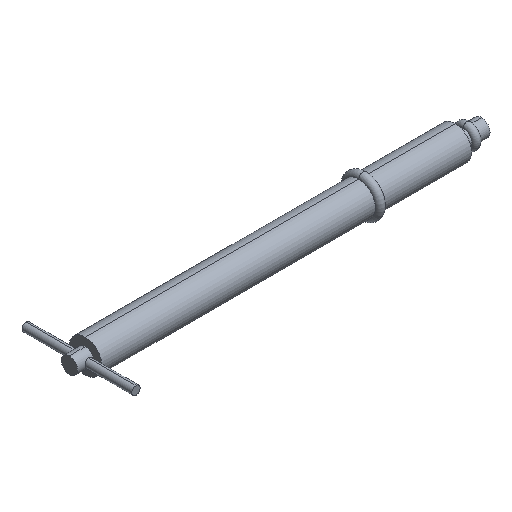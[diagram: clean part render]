
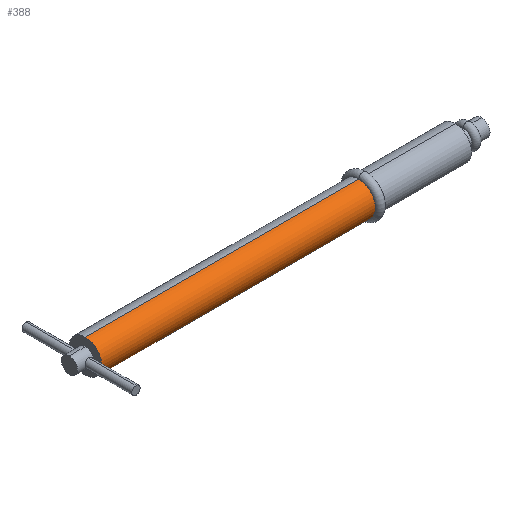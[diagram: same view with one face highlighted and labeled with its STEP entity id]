
A CAD part, isometric view. The second image highlights one B-rep face of the part: STEP entity #388.
In plain terms, the highlighted cylindrical face has radius 6 mm (diameter 12 mm), a partial arc.
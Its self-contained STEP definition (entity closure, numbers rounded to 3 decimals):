
#19 = DIRECTION ( 'NONE',  ( -1., 0., 0. ) ) ;
#65 = CARTESIAN_POINT ( 'NONE',  ( 5.799, 0., -6. ) ) ;
#74 = CYLINDRICAL_SURFACE ( 'NONE', #820, 6. ) ;
#103 = ORIENTED_EDGE ( 'NONE', *, *, #362, .T. ) ;
#114 = VERTEX_POINT ( 'NONE', #597 ) ;
#155 = DIRECTION ( 'NONE',  ( -1., 0., 0. ) ) ;
#190 = ORIENTED_EDGE ( 'NONE', *, *, #739, .T. ) ;
#263 = EDGE_CURVE ( 'NONE', #481, #439, #816, .T. ) ;
#303 = EDGE_LOOP ( 'NONE', ( #432, #103, #190, #584 ) ) ;
#323 = LINE ( 'NONE', #719, #819 ) ;
#362 = EDGE_CURVE ( 'NONE', #114, #455, #609, .T. ) ;
#364 = VECTOR ( 'NONE', #19, 1000. ) ;
#380 = DIRECTION ( 'NONE',  ( -1., 0., 0. ) ) ;
#388 = ADVANCED_FACE ( 'NONE', ( #759 ), #74, .T. ) ;
#392 = CARTESIAN_POINT ( 'NONE',  ( 5.799, 0., 6. ) ) ;
#398 = CARTESIAN_POINT ( 'NONE',  ( 105.355, 0., 0. ) ) ;
#401 = DIRECTION ( 'NONE',  ( 0., 0., 1. ) ) ;
#412 = DIRECTION ( 'NONE',  ( -1., 0., 0. ) ) ;
#432 = ORIENTED_EDGE ( 'NONE', *, *, #657, .F. ) ;
#439 = VERTEX_POINT ( 'NONE', #392 ) ;
#452 = DIRECTION ( 'NONE',  ( 0., 0., 1. ) ) ;
#455 = VERTEX_POINT ( 'NONE', #829 ) ;
#481 = VERTEX_POINT ( 'NONE', #65 ) ;
#489 = CARTESIAN_POINT ( 'NONE',  ( 5.799, 0., 0. ) ) ;
#514 = CARTESIAN_POINT ( 'NONE',  ( 0., 0., 0. ) ) ;
#576 = CARTESIAN_POINT ( 'NONE',  ( 0., 0., -6. ) ) ;
#584 = ORIENTED_EDGE ( 'NONE', *, *, #263, .F. ) ;
#597 = CARTESIAN_POINT ( 'NONE',  ( 105.355, 0., -6. ) ) ;
#609 = CIRCLE ( 'NONE', #764, 6. ) ;
#657 = EDGE_CURVE ( 'NONE', #114, #481, #737, .T. ) ;
#719 = CARTESIAN_POINT ( 'NONE',  ( 0., 0., 6. ) ) ;
#737 = LINE ( 'NONE', #576, #364 ) ;
#739 = EDGE_CURVE ( 'NONE', #455, #439, #323, .T. ) ;
#759 = FACE_OUTER_BOUND ( 'NONE', #303, .T. ) ;
#764 = AXIS2_PLACEMENT_3D ( 'NONE', #398, #155, #452 ) ;
#774 = DIRECTION ( 'NONE',  ( 0., 0., 1. ) ) ;
#781 = AXIS2_PLACEMENT_3D ( 'NONE', #489, #412, #401 ) ;
#786 = DIRECTION ( 'NONE',  ( -1., 0., 0. ) ) ;
#816 = CIRCLE ( 'NONE', #781, 6. ) ;
#819 = VECTOR ( 'NONE', #786, 1000. ) ;
#820 = AXIS2_PLACEMENT_3D ( 'NONE', #514, #380, #774 ) ;
#829 = CARTESIAN_POINT ( 'NONE',  ( 105.355, 0., 6. ) ) ;
